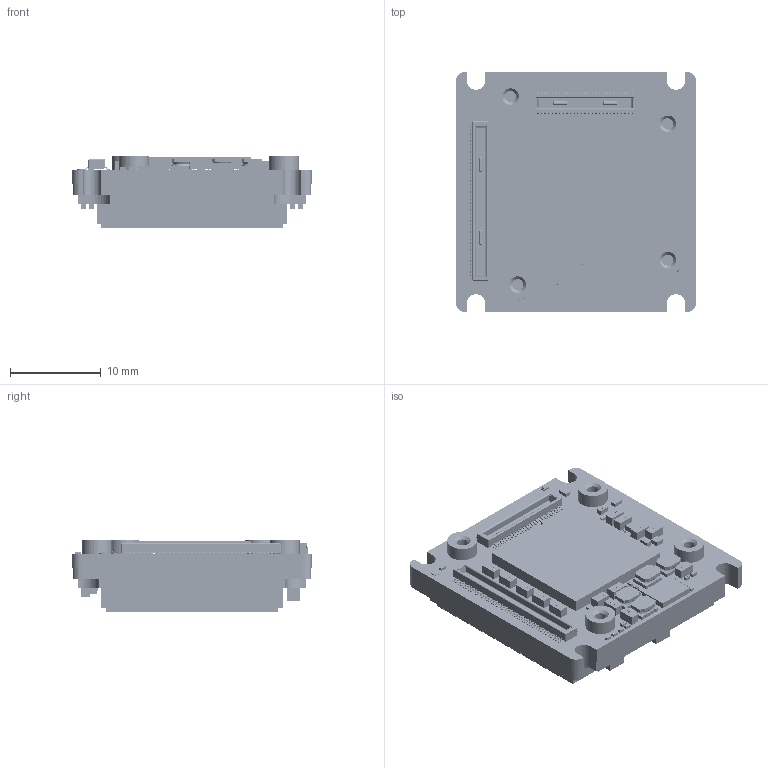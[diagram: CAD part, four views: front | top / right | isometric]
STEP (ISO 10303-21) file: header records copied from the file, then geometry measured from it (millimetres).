
FILE_DESCRIPTION (( 'STEP AP214' ), '1' );
FILE_NAME ('Alvium-Extended-Bare-Board-IMX540-541-542.STEP', '2022-12-22T09:54:33', ( '' ), ( '' ), 'SwSTEP 2.0', 'SolidWorks 2021', '' );
FILE_SCHEMA (( 'AUTOMOTIVE_DESIGN' ));
Length unit declared in the file: millimetre
Products named in the file (1): Alvium-Extended-Bare-Board-IMX540-541-542
Bounding box: 26.4 x 26.4 x 7.95 mm (x, y, z)
Surface area: 5287 mm2 (no closed solid volume)
Topology: 0 solids, 372 shells, 8028 faces, 24507 edges, 17581 vertices
Faces by surface type: plane 4346, bspline 2396, cylinder 1222, torus 40, cone 24
Entity records: 540981 total; most frequent: CARTESIAN_POINT 254438, ORIENTED_EDGE 43559, DIRECTION 30393, EDGE_CURVE 24496, VERTEX_POINT 17581, LINE 14125, VECTOR 14125, EDGE_LOOP 9060
